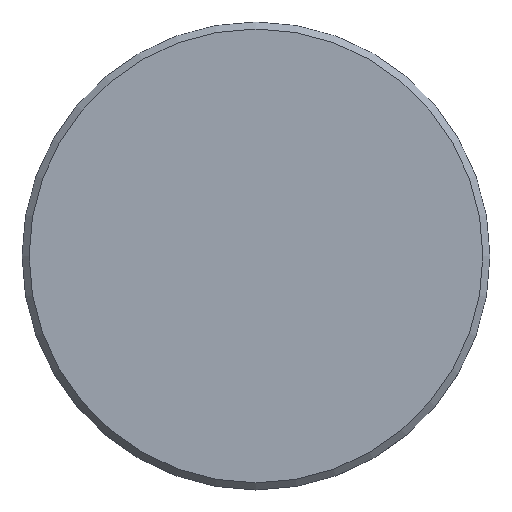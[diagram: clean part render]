
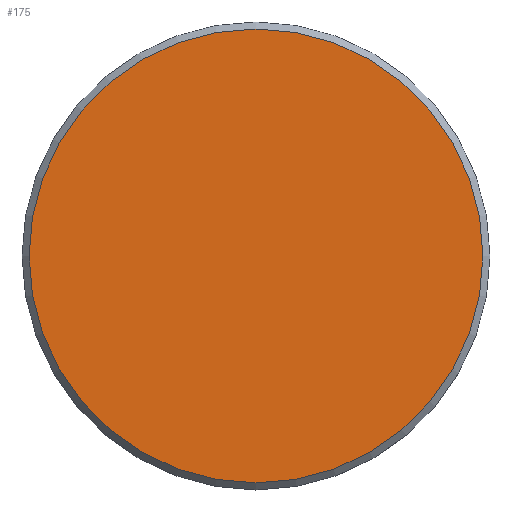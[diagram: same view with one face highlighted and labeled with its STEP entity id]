
A CAD part, top view. The second image highlights one B-rep face of the part: STEP entity #175.
In plain terms, the highlighted planar face has unit normal (0, 0, 1).
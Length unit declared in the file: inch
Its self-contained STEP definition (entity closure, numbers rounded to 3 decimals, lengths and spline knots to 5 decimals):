
#52=CARTESIAN_POINT('',(0.,0.,0.281));
#53=DIRECTION('',(0.,0.,1.));
#54=DIRECTION('',(-1.,0.,0.));
#55=AXIS2_PLACEMENT_3D('',#52,#53,#54);
#57=CARTESIAN_POINT('',(0.,0.,0.281));
#58=DIRECTION('',(0.,0.,1.));
#59=DIRECTION('',(1.,0.,0.));
#60=AXIS2_PLACEMENT_3D('',#57,#58,#59);
#66=CARTESIAN_POINT('',(-0.97,0.,0.281));
#67=CARTESIAN_POINT('',(0.97,0.,0.281));
#68=VERTEX_POINT('',#66);
#69=VERTEX_POINT('',#67);
#165=CARTESIAN_POINT('',(0.,0.,0.281));
#166=DIRECTION('',(0.,0.,-1.));
#167=DIRECTION('',(-1.,0.,0.));
#168=AXIS2_PLACEMENT_3D('',#165,#166,#167);
#169=PLANE('',#168);
#170=ORIENTED_EDGE('',*,*,#155,.F.);
#172=ORIENTED_EDGE('',*,*,#171,.F.);
#173=EDGE_LOOP('',(#170,#172));
#174=FACE_OUTER_BOUND('',#173,.F.);
#175=ADVANCED_FACE('',(#174),#169,.F.);
#56=CIRCLE('',#55,0.97);
#61=CIRCLE('',#60,0.97);
#155=EDGE_CURVE('',#68,#69,#56,.T.);
#171=EDGE_CURVE('',#69,#68,#61,.T.);
